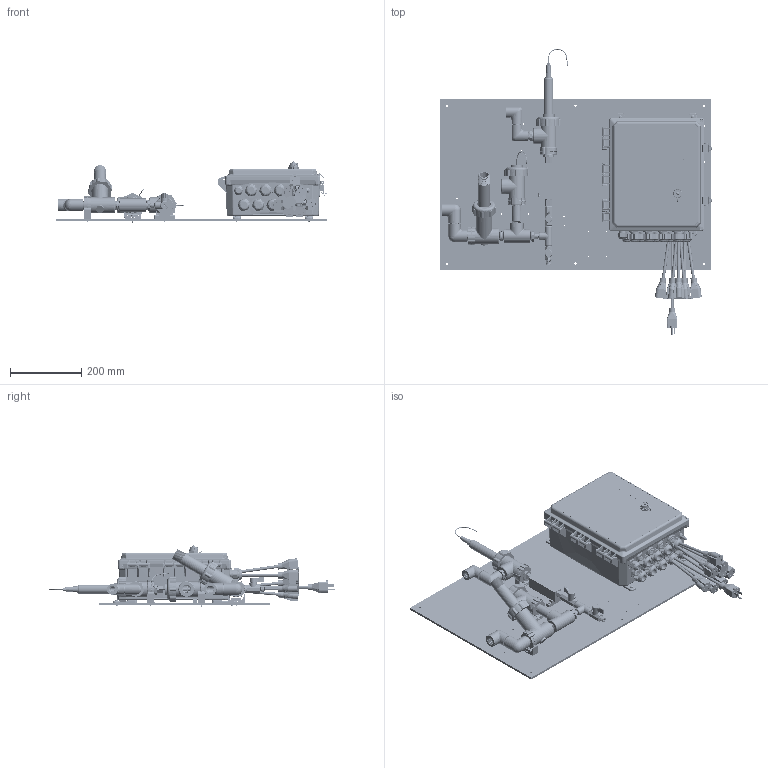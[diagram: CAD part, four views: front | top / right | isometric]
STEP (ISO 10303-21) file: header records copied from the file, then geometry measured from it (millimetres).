
FILE_DESCRIPTION (( 'STEP AP203' ), '1' );
FILE_NAME ('W900-CT-PFKNNN.STEP', '2021-05-28T17:00:47', ( '' ), ( '' ), 'SwSTEP 2.0', 'SolidWorks 2019', '' );
FILE_SCHEMA (( 'CONFIG_CONTROL_DESIGN' ));
Length unit declared in the file: inch
Products named in the file (63): SHELL-102961_30075T212; SHELL-102594; SHELL-102586; SHELL-103515; SHELL-102442_4880K347; SHELL-103425_4882K14; SHELL-103971; SHELL-102917; SHELL-191655-XX; SHELL-103283-FT; IMS0035_91500A537; SHELL-102381_4880K345; SHELL-102882; SHELL-102961ws; SHELL-102938; 102903_102903; SHELL-103419-1; SHELL-WEL-XXX-NN; SHELL-191655-C; ISA0006; SHELL-191445-191655-XX-191377-; 103860_Cord1; SHELL-191445; ISA0059; SHELL-102919; IMS0012; 104417-4452K861_316 STAINLESS STEEL THREADED PIPE FITTING_4452K861; SHELL-102880; W900 Shell; SHELL-103893_91772A829; ISA0062; W900-CT-PFKNNN; SHELL-191782; SHELL-190996; SHELL-102881; SHELL-103859_Cord1; 103861; SHELL-102784; SHELL-100795; 104235_REV_1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
Assembly tree (103 placements, depth 4):
  W900-CT-PFKNNN
    SHELL-102938
    W900 Shell
      W900 Shell
      SHELL-103283-FT  x4
      IMS0035_91500A537  x4
      SHELL-103893_91772A829  x4
      ISA0006
        102903_102903
        102906
        103860_Cord1  x3
        103861
      ISA0006
        102903_102903
        102906
        103860_Cord1  x2
        103861
      ISA0006
        102907
        102903_102903
        102906
        103860_Cord1  x3
        103861
      SHELL-103859_Cord1
    SHELL-191782
      SHELL-100399_4882K13  x2
      SHELL-102061
      SHELL-102381_4880K345  x2
      SHELL-102423  x2
      SHELL-102442_4880K347
      SHELL-102784  x2
      SHELL-102881  x2
      SHELL-102884
      SHELL-102917
      SHELL-103425_4882K14  x3
      SHELL-103515
        IMS0013
        IMS0012
      SHELL-103686
        IMS0025
        IMS0012
      SHELL-103969
      SHELL-103971
      SHELL-104158
      104235_REV_1
      SHELL-100795
      104417-4452K861_316 STAINLESS STEEL THREADED PIPE FITTING_4452K861  x2
    SHELL-102961ws
      SHELL-102961_30075T212
      SHELL-103886_98273A320
    SHELL-102961ws
      SHELL-102961_30075T212
      SHELL-103886_98273A320
    SHELL-102961ws
      SHELL-102961_30075T212
      SHELL-103886_98273A320
    SHELL-102586  x3
    ISA0062
      SHELL-102882
      SHELL-102919
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Bounding box: 764.69 x 806.3 x 172.01 mm (x, y, z)
Volume: 5492176.3 mm3; surface area: 2312274.2 mm2
Topology: 135 solids, 135 shells, 17841 faces, 46689 edges, 29231 vertices
Faces by surface type: plane 7020, cylinder 5507, bspline 3302, cone 1387, torus 508, sphere 117
Entity records: 714891 total; most frequent: CARTESIAN_POINT 387685, ORIENTED_EDGE 76292, DIRECTION 53573, EDGE_CURVE 38146, VERTEX_POINT 24067, AXIS2_PLACEMENT_3D 18478, LINE 16617, VECTOR 16617
